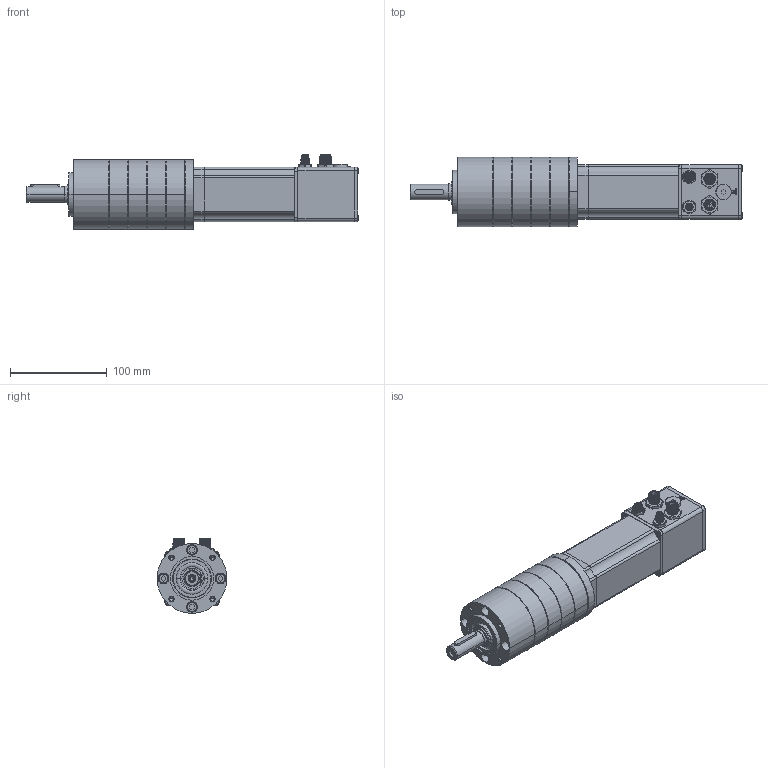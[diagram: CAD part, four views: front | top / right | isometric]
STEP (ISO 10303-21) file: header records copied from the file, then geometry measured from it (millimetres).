
FILE_DESCRIPTION (( 'STEP AP214' ), '1' );
FILE_NAME ('IDX56L_PM72 4 étages.STEP', '2020-02-14T14:14:29', ( '' ), ( '' ), 'SwSTEP 2.0', 'SolidWorks 2018', '' );
FILE_SCHEMA (( 'AUTOMOTIVE_DESIGN' ));
Length unit declared in the file: millimetre
Products named in the file (5): IDX56L_PM72 4 étages; PM72-4etages; Vis_CHC_2__Vis CHC M5 x 8; B7B8186C2EA7; 6576738_01_Adapt IDX56L_PM72
Assembly tree (7 placements, depth 2):
  IDX56L_PM72 4 étages
    B7B8186C2EA7
    6576738_01_Adapt IDX56L_PM72
    Vis_CHC_2__Vis CHC M5 x 8  x4
    PM72-4etages
Bounding box: 342.95 x 72 x 77 mm (x, y, z)
Volume: 550961.6 mm3; surface area: 241522.4 mm2
Topology: 55 solids, 94 shells, 3263 faces, 8136 edges, 5148 vertices
Faces by surface type: cylinder 1198, plane 1072, cone 807, bspline 110, torus 76
Entity records: 135386 total; most frequent: CARTESIAN_POINT 20701, DIRECTION 17710, ORIENTED_EDGE 15968, EDGE_CURVE 8002, AXIS2_PLACEMENT_3D 6740, VERTEX_POINT 5076, VECTOR 4230, LINE 4230
